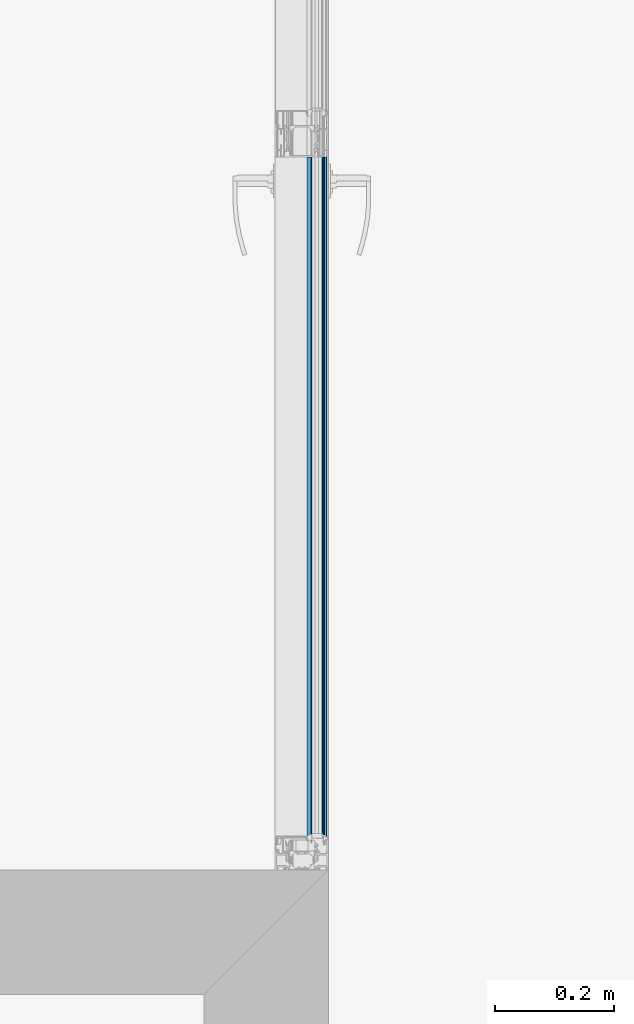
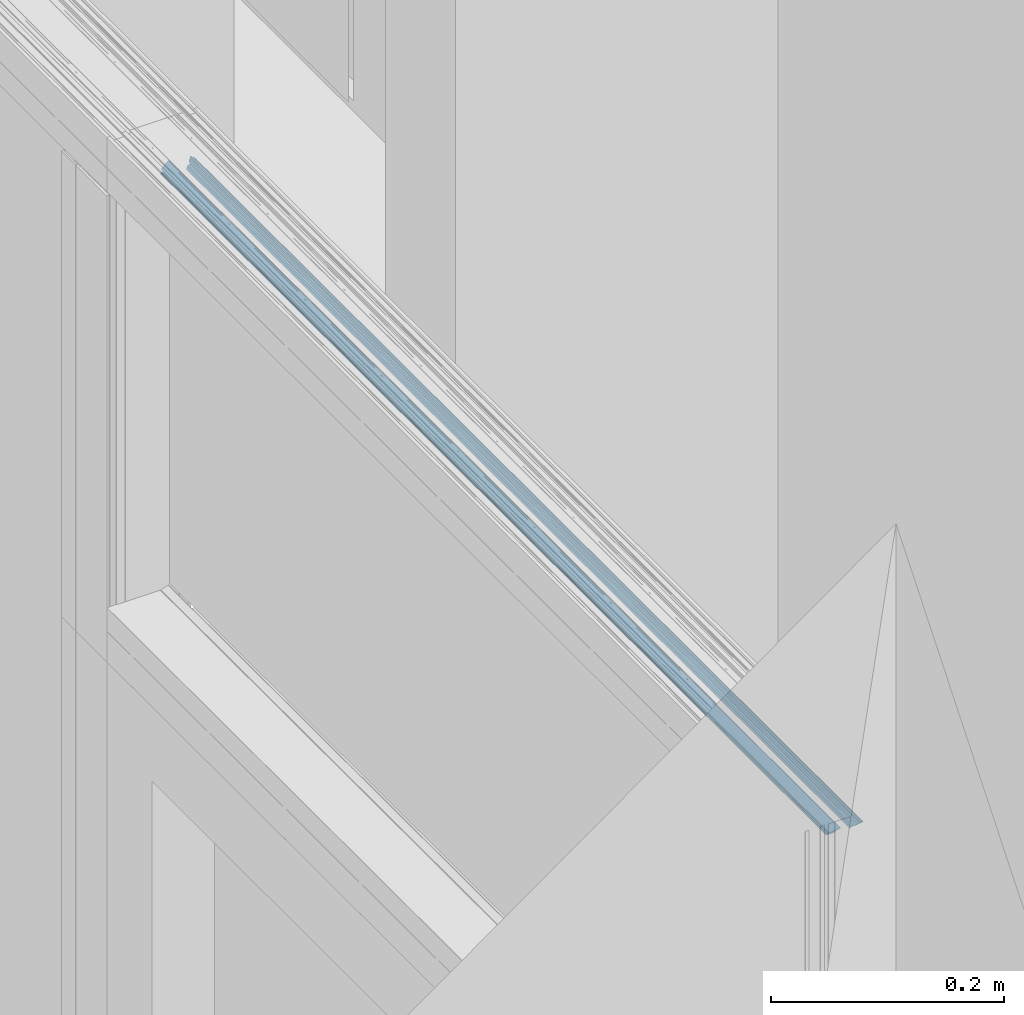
# One storey, part 53 of 89: 1 building element part, 2 elements without a shape of their own.
"""IFC2X3 building model written with IfcOpenShell, lengths in millimetres."""

from ifc_helpers import new_model, entity, si_unit, converted_unit, derived_unit, money_unit, direction, frame, origin_with_axes, place, context, subcontext, project, spatial, faceted_brep, material, type_object, element, aggregate, save


model = new_model("IFC2X3")

# Units and contexts
model_context = context("Model", 3, precision=0.01, world=origin_with_axes(), true_north=direction((0.0, 1.0)))
body_context = subcontext(model_context, "Body", "Model", "MODEL_VIEW")
ifc_project = project(units=[si_unit("LENGTHUNIT", "METRE", prefix="MILLI"), si_unit("AREAUNIT", "SQUARE_METRE"), si_unit("VOLUMEUNIT", "CUBIC_METRE"), converted_unit("PLANEANGLEUNIT", "DEGREE", entity("IfcPlaneAngleMeasure", 0.0174532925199), si_unit("PLANEANGLEUNIT", "RADIAN"), dimensions=[0, 0, 0, 0, 0, 0, 0]), si_unit("SOLIDANGLEUNIT", "STERADIAN"), money_unit("EUR"), converted_unit("TIMEUNIT", "Year", entity("IfcTimeMeasure", 31556926.0), si_unit("TIMEUNIT", "SECOND"), dimensions=[0, 0, 1, 0, 0, 0, 0]), si_unit("MASSUNIT", "GRAM", prefix="KILO"), si_unit("THERMODYNAMICTEMPERATUREUNIT", "DEGREE_CELSIUS"), si_unit("LUMINOUSINTENSITYUNIT", "LUMEN"), si_unit("ENERGYUNIT", "JOULE", prefix="MEGA"), derived_unit("THERMALCONDUCTANCEUNIT", [(si_unit("POWERUNIT", "WATT"), 1), (si_unit("LENGTHUNIT", "METRE"), -1), (si_unit("THERMODYNAMICTEMPERATUREUNIT", "KELVIN"), -1)]), derived_unit("SPECIFICHEATCAPACITYUNIT", [(si_unit("ENERGYUNIT", "JOULE"), 1), (si_unit("MASSUNIT", "GRAM", prefix="KILO"), -1), (si_unit("THERMODYNAMICTEMPERATUREUNIT", "KELVIN"), -1)]), derived_unit("MASSDENSITYUNIT", [(si_unit("MASSUNIT", "GRAM", prefix="KILO"), 1), (si_unit("VOLUMEUNIT", "CUBIC_METRE"), -1)])], contexts=[model_context])

# Site, building, storey
site_placement = place(None, origin_with_axes())
site = spatial("IfcSite", under=ifc_project, at=site_placement, Name="Puškini 31, Narva", CompositionType="ELEMENT")
building_placement = place(site_placement, origin_with_axes())
building = spatial("IfcBuilding", under=site, at=building_placement, Name="Narva Riigigümnaasium", CompositionType="ELEMENT")
storey_placement = place(building_placement, frame((0.0, 0.0, -3300.0), z_axis=(0.0, 0.0, 1.0), x_axis=(1.0, 0.0, 0.0)))
storey = spatial("IfcBuildingStorey", under=building, at=storey_placement, Name="1.korrus -3.3", CompositionType="ELEMENT", Elevation=-3300.0)

# Curtain wall, member, building element part
curtain_wall_type = type_object("IfcCurtainWallType", Name="Curtain Wall Type", PredefinedType="NOTDEFINED")
curtain_wall_placement = place(storey_placement, frame((34855.0104166, 221770.599999, -2.45869391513e-05), z_axis=(0.0, 0.0, 1.0), x_axis=(1.0, 0.0, 0.0)))
curtain_wall = element("IfcCurtainWall", 1, at=curtain_wall_placement, inside=storey, type_object=curtain_wall_type, Name="G-SKLF-08")
member_type = type_object("IfcMemberType", Name="61 x 45", PredefinedType="MULLION")
member_placement = place(curtain_wall_placement, frame((-0.00305436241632, 709.399999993, 2950.00002459), z_axis=(4.3055573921e-06, -0.999999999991, 0.0), x_axis=(0.0, 0.0, -1.0)))
member = element("IfcMember", 2, at=member_placement, type_object=member_type, Name="G-SKLF-08-raam", ObjectType="MULLION")
aggregate(curtain_wall, [member])
ifc_material = material(Name="Membraan - Veekindel")
building_element_part_placement = place(member_placement, origin_with_axes())
building_element_part = element("IfcBuildingElementPart", 3, at=building_element_part_placement, material=ifc_material, Name="Membraan - Veekindel", context=body_context, shape_type="Brep", body=[
    faceted_brep([(61.0413385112, 34.3890442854, -3.94595249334e-07), (59.5800222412, 34.73794757, -3.94595249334e-07), (59.5800222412, 34.73794757, 1140.41997776), (61.0413385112, 34.3890442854, 1138.95866149), (61.1536677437, 34.1934467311, -3.94595249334e-07), (61.1423164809, 33.9681748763, -3.94595249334e-07), (61.0108941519, 33.784859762, -3.94595249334e-07), (60.7381535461, 33.9217644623, -3.94595249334e-07), (59.8409257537, 34.1343131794, -3.94595249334e-07), (58.2346494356, 34.5489145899, -3.94595249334e-07), (56.9567944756, 35.6067920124, -3.94595249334e-07), (56.2495873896, 37.1074172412, -3.94595249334e-07), (56.1542959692, 37.3107917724, -3.94595249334e-07), (55.9795989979, 37.4519392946, -3.94595249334e-07), (55.7607444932, 37.5023809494, -3.94595249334e-07), (55.1093263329, 37.5023809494, -3.94595249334e-07), (54.8593263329, 37.4353936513, -3.94595249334e-07), (54.676313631, 37.2523809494, -3.94595249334e-07), (54.2721684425, 36.5523809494, -3.94595249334e-07), (54.0891557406, 36.3693682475, -3.94595249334e-07), (53.8391557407, 36.3023809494, -3.94595249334e-07), (51.602145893, 36.3023809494, -3.94595249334e-07), (51.352145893, 36.3693682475, -3.94595249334e-07), (51.1691331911, 36.5523809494, -3.94595249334e-07), (50.7649880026, 37.2523809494, -3.94595249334e-07), (50.5819753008, 37.4353936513, -3.94595249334e-07), (50.3319753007, 37.5023809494, -3.94595249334e-07), (49.2206527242, 37.5023809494, -3.94595249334e-07), (48.9706527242, 37.5693682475, -3.94595249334e-07), (48.7876400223, 37.7523809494, -3.94595249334e-07), (48.7206527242, 38.0023809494, -3.94595249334e-07), (48.7206527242, 39.1999494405, -3.94595249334e-07), (50.10004, 39.1999494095, -3.94595249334e-07), (50.1670287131, 38.9499497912, -3.94595249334e-07), (50.3500424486, 38.7669381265, -3.94595249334e-07), (50.6000428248, 38.699952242, -3.94595249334e-07), (50.8500424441, 38.7669409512, -3.94595249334e-07), (51.0330541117, 38.9499546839, -3.94595249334e-07), (51.10004, 39.1999550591, -3.94595249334e-07), (51.10004, 40.4999366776, -3.94595249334e-07), (51.0598476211, 40.6499366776, -3.94595249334e-07), (50.95004, 40.7597442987, -3.94595249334e-07), (50.80004, 40.7999366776, -3.94595249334e-07), (50.7000457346, 40.7999366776, -3.94595249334e-07), (50.5334025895, 40.8504763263, -3.94595249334e-07), (50.4229059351, 40.9850671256, -3.94595249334e-07), (50.4057850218, 41.1583618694, -3.94595249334e-07), (50.4878083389, 41.3119729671, -3.94595249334e-07), (51.5281601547, 42.3533311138, -3.94595249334e-07), (51.6904310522, 42.4618421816, -3.94595249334e-07), (51.8818844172, 42.4999486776, -3.94595249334e-07), (53.517932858, 42.4999486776, -3.94595249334e-07), (53.7093558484, 42.4618547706, -3.94595249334e-07), (53.8716106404, 42.3533776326, -3.94595249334e-07), (54.9122350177, 41.3120206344, -3.94595249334e-07), (54.9942836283, 41.1584047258, -3.94595249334e-07), (54.9771753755, 40.9850924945, -3.94595249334e-07), (54.866675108, 40.850483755, -3.94595249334e-07), (54.7000173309, 40.7999366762, -3.94595249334e-07), (54.6000210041, 40.7999366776, -3.94595249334e-07), (54.4500210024, 40.7597443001, -3.94595249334e-07), (54.3402133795, 40.6499366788, -3.94595249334e-07), (54.300021, 40.4999366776, -3.94595249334e-07), (54.300021, 39.1999606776, -3.94595249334e-07), (54.3670082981, 38.9499606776, -3.94595249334e-07), (54.5500210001, 38.7669479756, -3.94595249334e-07), (54.8000210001, 38.6999606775, -3.94595249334e-07), (55.0500210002, 38.7669479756, -3.94595249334e-07), (55.2330337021, 38.9499606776, -3.94595249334e-07), (55.3000210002, 39.1999606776, -3.94595249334e-07), (57.3000022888, 39.1999494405, -3.94595249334e-07), (57.3000022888, 39.9999846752, -3.94595249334e-07), (57.5000161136, 39.946391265, -3.94595249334e-07), (57.6464370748, 39.799971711, -3.94595249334e-07), (57.7000324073, 39.5999584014, -3.94595249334e-07), (57.9693613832, 36.5265882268, -3.94595249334e-07), (58.4755028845, 35.3628499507, -3.94595249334e-07), (53.5000340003, 40.7999553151, -3.94595249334e-07), (53.4330491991, 41.0499459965, -3.94595249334e-07), (53.2500433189, 41.2329518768, -3.94595249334e-07), (53.0000526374, 41.299936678, -3.94595249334e-07), (52.4000083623, 41.299936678, -3.94595249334e-07), (52.150017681, 41.2329518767, -3.94595249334e-07), (51.9670118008, 41.0499459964, -3.94595249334e-07), (51.9000269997, 40.799955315, -3.94595249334e-07), (51.9000269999, 39.6999268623, -3.94595249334e-07), (51.9670129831, 39.4499317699, -3.94595249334e-07), (52.1500220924, 39.2669226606, -3.94595249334e-07), (52.4000171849, 39.1999366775, -3.94595249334e-07), (53.0000438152, 39.1999366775, -3.94595249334e-07), (53.2500389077, 39.2669226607, -3.94595249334e-07), (53.433048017, 39.44993177, -3.94595249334e-07), (58.4755028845, 35.3628499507, 1141.52449712), (57.9693613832, 36.5265882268, 1142.03063862), (57.7000324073, 39.5999584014, 1142.29996759), (57.6464370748, 39.799971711, 1142.35356293), (57.5000161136, 39.946391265, 1142.49998389), (57.3000022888, 39.9999846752, 1142.69999771), (57.3000022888, 39.1999494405, 1142.69999771), (55.3000210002, 39.1999606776, 1144.699979), (55.2330337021, 38.9499606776, 1144.7669663), (55.0500210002, 38.7669479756, 1144.949979), (54.8000210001, 38.6999606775, 1145.199979), (54.5500210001, 38.7669479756, 1145.449979), (54.3670082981, 38.9499606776, 1145.6329917), (54.300021, 39.1999606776, 1145.699979), (54.300021, 40.4999366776, 1145.699979), (54.3402133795, 40.6499366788, 1145.65978662), (54.4500210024, 40.7597443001, 1145.549979), (54.6000210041, 40.7999366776, 1145.399979), (54.7000173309, 40.7999366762, 1145.29998267), (54.866675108, 40.850483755, 1145.13332489), (54.9771753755, 40.9850924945, 1145.02282462), (54.9942836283, 41.1584047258, 1145.00571637), (54.9122350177, 41.3120206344, 1145.08776498), (53.8716106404, 42.3533776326, 1146.12838936), (53.7093558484, 42.4618547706, 1146.29064415), (53.517932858, 42.4999486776, 1146.48206714), (51.8818844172, 42.4999486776, 1148.11811558), (51.6904310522, 42.4618421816, 1148.30956895), (51.5281601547, 42.3533311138, 1148.47183985), (50.4878083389, 41.3119729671, 1149.51219166), (50.4057850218, 41.1583618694, 1149.59421498), (50.4229059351, 40.9850671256, 1149.57709406), (50.5334025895, 40.8504763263, 1149.46659741), (50.7000457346, 40.7999366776, 1149.29995427), (50.80004, 40.7999366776, 1149.19996), (50.95004, 40.7597442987, 1149.04996), (51.0598476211, 40.6499366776, 1148.94015238), (51.10004, 40.4999366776, 1148.89996), (51.10004, 39.1999550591, 1148.89996), (51.0330541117, 38.9499546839, 1148.96694589), (50.8500424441, 38.7669409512, 1149.14995756), (50.6000428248, 38.699952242, 1149.39995718), (50.3500424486, 38.7669381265, 1149.64995755), (50.1670287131, 38.9499497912, 1149.83297129), (50.10004, 39.1999494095, 1149.89996), (48.7206527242, 39.1999494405, 1151.27934728), (48.7206527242, 38.0023809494, 1151.27934728), (48.7876400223, 37.7523809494, 1151.21235998), (48.9706527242, 37.5693682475, 1151.02934728), (49.2206527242, 37.5023809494, 1150.77934728), (50.3319753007, 37.5023809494, 1149.6680247), (50.5819753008, 37.4353936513, 1149.4180247), (50.7649880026, 37.2523809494, 1149.235012), (51.1691331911, 36.5523809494, 1148.83086681), (51.352145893, 36.3693682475, 1148.64785411), (51.602145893, 36.3023809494, 1148.39785411), (53.8391557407, 36.3023809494, 1146.16084426), (54.0891557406, 36.3693682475, 1145.91084426), (54.2721684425, 36.5523809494, 1145.72783156), (54.676313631, 37.2523809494, 1145.32368637), (54.8593263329, 37.4353936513, 1145.14067367), (55.1093263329, 37.5023809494, 1144.89067367), (55.7607444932, 37.5023809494, 1144.23925551), (55.9795989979, 37.4519392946, 1144.020401), (56.1542959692, 37.3107917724, 1143.84570403), (56.2495873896, 37.1074172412, 1143.75041261), (56.9567944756, 35.6067920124, 1143.04320552), (58.2346494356, 34.5489145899, 1141.76535056), (59.8409257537, 34.1343131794, 1140.15907425), (60.7381535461, 33.9217644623, 1139.26184645), (61.0108941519, 33.784859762, 1138.98910585), (61.1423164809, 33.9681748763, 1138.85768352), (61.1536677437, 34.1934467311, 1138.84633226), (53.5000340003, 40.7999553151, 1146.499966), (53.433048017, 39.44993177, 1146.56695198), (53.2500389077, 39.2669226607, 1146.74996109), (53.0000438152, 39.1999366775, 1146.99995618), (52.4000171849, 39.1999366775, 1147.59998282), (52.1500220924, 39.2669226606, 1147.84997791), (51.9670129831, 39.4499317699, 1148.03298702), (51.9000269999, 39.6999268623, 1148.099973), (51.9000269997, 40.799955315, 1148.099973), (51.9670118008, 41.0499459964, 1148.0329882), (52.150017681, 41.2329518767, 1147.84998232), (52.4000083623, 41.299936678, 1147.59999164), (53.0000526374, 41.299936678, 1146.99994736), (53.2500433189, 41.2329518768, 1146.74995668), (53.4330491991, 41.0499459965, 1146.5669508)], [[[0, 1, 2, 3]], [[0, 4, 5, 6, 7, 8, 9, 10, 11, 12, 13, 14, 15, 16, 17, 18, 19, 20, 21, 22, 23, 24, 25, 26, 27, 28, 29, 30, 31, 32, 33, 34, 35, 36, 37, 38, 39, 40, 41, 42, 43, 44, 45, 46, 47, 48, 49, 50, 51, 52, 53, 54, 55, 56, 57, 58, 59, 60, 61, 62, 63, 64, 65, 66, 67, 68, 69, 70, 71, 72, 73, 74, 75, 76, 1], [77, 78, 79, 80, 81, 82, 83, 84, 85, 86, 87, 88, 89, 90, 91]], [[1, 76, 92, 2]], [[3, 2, 92, 93, 94, 95, 96, 97, 98, 99, 100, 101, 102, 103, 104, 105, 106, 107, 108, 109, 110, 111, 112, 113, 114, 115, 116, 117, 118, 119, 120, 121, 122, 123, 124, 125, 126, 127, 128, 129, 130, 131, 132, 133, 134, 135, 136, 137, 138, 139, 140, 141, 142, 143, 144, 145, 146, 147, 148, 149, 150, 151, 152, 153, 154, 155, 156, 157, 158, 159, 160, 161, 162, 163, 164], [165, 166, 167, 168, 169, 170, 171, 172, 173, 174, 175, 176, 177, 178, 179]], [[4, 0, 3, 164]], [[5, 4, 164, 163]], [[6, 5, 163, 162]], [[7, 6, 162, 161]], [[8, 7, 161, 160]], [[9, 8, 160, 159]], [[10, 9, 159, 158]], [[11, 10, 158, 157]], [[12, 11, 157, 156]], [[13, 12, 156, 155]], [[14, 13, 155, 154]], [[15, 14, 154, 153]], [[16, 15, 153, 152]], [[17, 16, 152, 151]], [[18, 17, 151, 150]], [[19, 18, 150, 149]], [[20, 19, 149, 148]], [[21, 20, 148, 147]], [[22, 21, 147, 146]], [[23, 22, 146, 145]], [[24, 23, 145, 144]], [[25, 24, 144, 143]], [[26, 25, 143, 142]], [[27, 26, 142, 141]], [[28, 27, 141, 140]], [[29, 28, 140, 139]], [[30, 29, 139, 138]], [[31, 30, 138, 137]], [[32, 31, 137, 136]], [[33, 32, 136, 135]], [[34, 33, 135, 134]], [[35, 34, 134, 133]], [[36, 35, 133, 132]], [[37, 36, 132, 131]], [[38, 37, 131, 130]], [[39, 38, 130, 129]], [[40, 39, 129, 128]], [[41, 40, 128, 127]], [[42, 41, 127, 126]], [[43, 42, 126, 125]], [[44, 43, 125, 124]], [[45, 44, 124, 123]], [[46, 45, 123, 122]], [[47, 46, 122, 121]], [[48, 47, 121, 120]], [[49, 48, 120, 119]], [[50, 49, 119, 118]], [[51, 50, 118, 117]], [[52, 51, 117, 116]], [[53, 52, 116, 115]], [[54, 53, 115, 114]], [[55, 54, 114, 113]], [[56, 55, 113, 112]], [[57, 56, 112, 111]], [[58, 57, 111, 110]], [[59, 58, 110, 109]], [[60, 59, 109, 108]], [[61, 60, 108, 107]], [[62, 61, 107, 106]], [[63, 62, 106, 105]], [[64, 63, 105, 104]], [[65, 64, 104, 103]], [[66, 65, 103, 102]], [[67, 66, 102, 101]], [[68, 67, 101, 100]], [[69, 68, 100, 99]], [[70, 69, 99, 98]], [[71, 70, 98, 97]], [[72, 71, 97, 96]], [[73, 72, 96, 95]], [[74, 73, 95, 94]], [[75, 74, 94, 93]], [[76, 75, 93, 92]], [[78, 77, 165, 179]], [[79, 78, 179, 178]], [[80, 79, 178, 177]], [[81, 80, 177, 176]], [[82, 81, 176, 175]], [[83, 82, 175, 174]], [[84, 83, 174, 173]], [[85, 84, 173, 172]], [[86, 85, 172, 171]], [[87, 86, 171, 170]], [[88, 87, 170, 169]], [[89, 88, 169, 168]], [[90, 89, 168, 167]], [[91, 90, 167, 166]], [[77, 91, 166, 165]]]),
    faceted_brep([(59.0307115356, 16.554149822, -3.94595249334e-07), (55.9926715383, 16.8063498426, -3.94595249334e-07), (55.9926715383, 16.8063498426, 1144.00732846), (59.0307115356, 16.554149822, 1140.96928846), (59.3884652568, 16.1092618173, -3.94595249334e-07), (59.5001582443, 15.5494067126, -3.94595249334e-07), (59.3405112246, 15.0012955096, -3.94595249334e-07), (57.5418652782, 10.0035930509, -3.94595249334e-07), (57.2632233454, 8.46932121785, -3.94595249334e-07), (57.1824204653, 8.36745448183, -3.94595249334e-07), (57.0661058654, 8.3093438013, -3.94595249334e-07), (56.9361285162, 8.30590490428, -3.94595249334e-07), (55.5361285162, 8.57803733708, -3.94595249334e-07), (55.4168250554, 8.62997353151, -3.94595249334e-07), (55.3307332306, 8.72753828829, -3.94595249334e-07), (55.2940485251, 8.85237785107, -3.94595249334e-07), (55.4099827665, 9.81272116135, -3.94595249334e-07), (55.3838261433, 9.9780831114, -3.94595249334e-07), (55.2731258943, 10.1036784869, -3.94595249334e-07), (55.1123574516, 10.1503930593, -3.94595249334e-07), (53.0580290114, 10.1503930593, -3.94595249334e-07), (52.8859560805, 10.0961386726, -3.94595249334e-07), (52.7761212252, 9.95299910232, -3.94595249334e-07), (52.3556584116, 8.79778701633, -3.94595249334e-07), (52.2574645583, 8.66326410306, -3.94595249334e-07), (52.1026310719, 8.60190419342, -3.94595249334e-07), (51.938943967, 8.6326446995, -3.94595249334e-07), (51.8169217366, 8.74599822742, -3.94595249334e-07), (45.6142070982, 15.4144760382, -3.94595249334e-07), (45.3418968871, 15.7688623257, -3.94595249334e-07), (45.3195226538, 16.2152275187, -3.94595249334e-07), (45.3889077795, 16.3899097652, -3.94595249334e-07), (45.6241929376, 16.6482027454, -3.94595249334e-07), (45.950966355, 16.7718696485, -3.94595249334e-07), (46.298307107, 16.7340705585, -3.94595249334e-07), (50.5536994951, 15.2121179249, -3.94595249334e-07), (50.8437237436, 15.0307134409, -3.94595249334e-07), (51.0558924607, 14.9074036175, -3.94595249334e-07), (51.3011765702, 14.8998814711, -3.94595249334e-07), (51.5205025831, 15.0099586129, -3.94595249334e-07), (53.1225200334, 16.3483062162, -3.94595249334e-07), (53.7899070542, 16.6230039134, -3.94595249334e-07), (53.7899070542, 16.6230039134, 1146.21009295), (53.1225200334, 16.3483062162, 1146.87747997), (51.5205025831, 15.0099586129, 1148.47949742), (51.3011765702, 14.8998814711, 1148.69882343), (51.0558924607, 14.9074036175, 1148.94410754), (50.8437237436, 15.0307134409, 1149.15627626), (50.5536994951, 15.2121179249, 1149.4463005), (46.298307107, 16.7340705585, 1153.70169289), (45.950966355, 16.7718696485, 1154.04903365), (45.6241929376, 16.6482027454, 1154.37580706), (45.3889077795, 16.3899097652, 1154.61109222), (45.3195226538, 16.2152275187, 1154.68047735), (45.3418968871, 15.7688623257, 1154.65810311), (45.6142070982, 15.4144760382, 1154.3857929), (51.8169217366, 8.74599822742, 1148.18307826), (51.938943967, 8.6326446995, 1148.06105603), (52.1026310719, 8.60190419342, 1147.89736893), (52.2574645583, 8.66326410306, 1147.74253544), (52.3556584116, 8.79778701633, 1147.64434159), (52.7761212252, 9.95299910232, 1147.22387877), (52.8859560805, 10.0961386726, 1147.11404392), (53.0580290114, 10.1503930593, 1146.94197099), (55.1123574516, 10.1503930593, 1144.88764255), (55.2731258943, 10.1036784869, 1144.72687411), (55.3838261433, 9.9780831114, 1144.61617386), (55.4099827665, 9.81272116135, 1144.59001723), (55.2940485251, 8.85237785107, 1144.70595147), (55.3307332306, 8.72753828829, 1144.66926677), (55.4168250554, 8.62997353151, 1144.58317494), (55.5361285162, 8.57803733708, 1144.46387148), (56.9361285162, 8.30590490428, 1143.06387148), (57.0661058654, 8.3093438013, 1142.93389413), (57.1824204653, 8.36745448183, 1142.81757953), (57.2632233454, 8.46932121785, 1142.73677665), (57.5418652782, 10.0035930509, 1142.45813472), (59.3405112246, 15.0012955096, 1140.65948878), (59.5001582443, 15.5494067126, 1140.49984176), (59.3884652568, 16.1092618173, 1140.61153474)], [[[0, 1, 2, 3]], [[0, 4, 5, 6, 7, 8, 9, 10, 11, 12, 13, 14, 15, 16, 17, 18, 19, 20, 21, 22, 23, 24, 25, 26, 27, 28, 29, 30, 31, 32, 33, 34, 35, 36, 37, 38, 39, 40, 41, 1]], [[1, 41, 42, 2]], [[3, 2, 42, 43, 44, 45, 46, 47, 48, 49, 50, 51, 52, 53, 54, 55, 56, 57, 58, 59, 60, 61, 62, 63, 64, 65, 66, 67, 68, 69, 70, 71, 72, 73, 74, 75, 76, 77, 78, 79]], [[4, 0, 3, 79]], [[5, 4, 79, 78]], [[6, 5, 78, 77]], [[7, 6, 77, 76]], [[8, 7, 76, 75]], [[9, 8, 75, 74]], [[10, 9, 74, 73]], [[11, 10, 73, 72]], [[12, 11, 72, 71]], [[13, 12, 71, 70]], [[14, 13, 70, 69]], [[15, 14, 69, 68]], [[16, 15, 68, 67]], [[17, 16, 67, 66]], [[18, 17, 66, 65]], [[19, 18, 65, 64]], [[20, 19, 64, 63]], [[21, 20, 63, 62]], [[22, 21, 62, 61]], [[23, 22, 61, 60]], [[24, 23, 60, 59]], [[25, 24, 59, 58]], [[26, 25, 58, 57]], [[27, 26, 57, 56]], [[28, 27, 56, 55]], [[29, 28, 55, 54]], [[30, 29, 54, 53]], [[31, 30, 53, 52]], [[32, 31, 52, 51]], [[33, 32, 51, 50]], [[34, 33, 50, 49]], [[35, 34, 49, 48]], [[36, 35, 48, 47]], [[37, 36, 47, 46]], [[38, 37, 46, 45]], [[39, 38, 45, 44]], [[40, 39, 44, 43]], [[41, 40, 43, 42]]]),
])
aggregate(member, [building_element_part])

save(model, "model.ifc")
